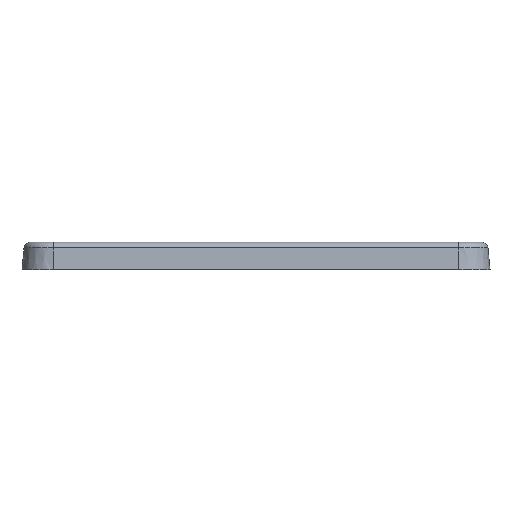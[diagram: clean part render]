
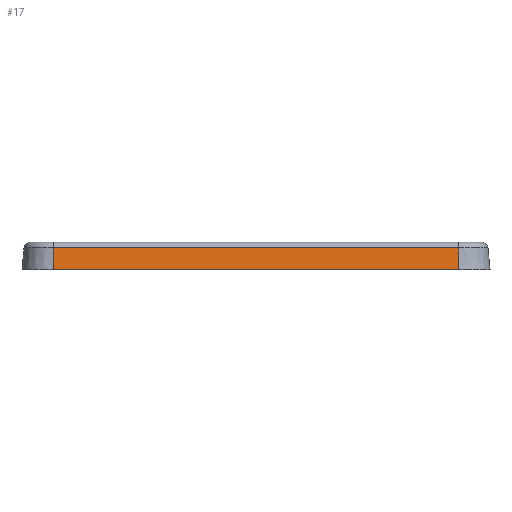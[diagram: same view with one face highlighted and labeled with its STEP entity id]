
A CAD part, left-side view. The second image highlights one B-rep face of the part: STEP entity #17.
In plain terms, the highlighted planar face has unit normal (-0.996, 0, 0.093).
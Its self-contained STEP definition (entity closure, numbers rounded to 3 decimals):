
#17 = ADVANCED_FACE('',(#18),#32,.F.);
#18 = FACE_BOUND('',#19,.F.);
#19 = EDGE_LOOP('',(#20,#53,#81,#107));
#20 = ORIENTED_EDGE('',*,*,#21,.T.);
#21 = EDGE_CURVE('',#22,#24,#26,.T.);
#22 = VERTEX_POINT('',#23);
#23 = CARTESIAN_POINT('',(-2.1,-4.,0.));
#24 = VERTEX_POINT('',#25);
#25 = CARTESIAN_POINT('',(-1.702,-4.,4.242));
#26 = SURFACE_CURVE('',#27,(#31,#42),.PCURVE_S1.);
#27 = LINE('',#28,#29);
#28 = CARTESIAN_POINT('',(-2.1,-4.,0.));
#29 = VECTOR('',#30,1.);
#30 = DIRECTION('',(0.093,0.,
    0.996));
#31 = PCURVE('',#32,#37);
#32 = PLANE('',#33);
#33 = AXIS2_PLACEMENT_3D('',#34,#35,#36);
#34 = CARTESIAN_POINT('',(-2.1,-43.5,0.));
#35 = DIRECTION('',(0.996,0.,-0.093));
#36 = DIRECTION('',(0.093,0.,0.996));
#37 = DEFINITIONAL_REPRESENTATION('',(#38),#41);
#38 = B_SPLINE_CURVE_WITH_KNOTS('',1,(#39,#40),.UNSPECIFIED.,.F.,.F.,(2,
    2),(0.,5.353),.PIECEWISE_BEZIER_KNOTS.);
#39 = CARTESIAN_POINT('',(0.,-39.5));
#40 = CARTESIAN_POINT('',(5.353,-39.5));
#41 = ( GEOMETRIC_REPRESENTATION_CONTEXT(2) 
PARAMETRIC_REPRESENTATION_CONTEXT() REPRESENTATION_CONTEXT('2D SPACE',''
  ) );
#42 = PCURVE('',#43,#48);
#43 = CONICAL_SURFACE('',#44,6.1,0.094);
#44 = AXIS2_PLACEMENT_3D('',#45,#46,#47);
#45 = CARTESIAN_POINT('',(4.,-4.,0.));
#46 = DIRECTION('',(0.,0.,-1.));
#47 = DIRECTION('',(1.,0.,0.));
#48 = DEFINITIONAL_REPRESENTATION('',(#49),#52);
#49 = B_SPLINE_CURVE_WITH_KNOTS('',1,(#50,#51),.UNSPECIFIED.,.F.,.F.,(2,
    2),(0.,5.353),.PIECEWISE_BEZIER_KNOTS.);
#50 = CARTESIAN_POINT('',(-3.142,0.));
#51 = CARTESIAN_POINT('',(-3.142,-5.33));
#52 = ( GEOMETRIC_REPRESENTATION_CONTEXT(2) 
PARAMETRIC_REPRESENTATION_CONTEXT() REPRESENTATION_CONTEXT('2D SPACE',''
  ) );
#53 = ORIENTED_EDGE('',*,*,#54,.T.);
#54 = EDGE_CURVE('',#24,#55,#57,.T.);
#55 = VERTEX_POINT('',#56);
#56 = CARTESIAN_POINT('',(-1.702,-83.,4.242));
#57 = SURFACE_CURVE('',#58,(#62,#69),.PCURVE_S1.);
#58 = LINE('',#59,#60);
#59 = CARTESIAN_POINT('',(-1.702,-4.,4.242));
#60 = VECTOR('',#61,1.);
#61 = DIRECTION('',(0.,-1.,0.));
#62 = PCURVE('',#32,#63);
#63 = DEFINITIONAL_REPRESENTATION('',(#64),#68);
#64 = LINE('',#65,#66);
#65 = CARTESIAN_POINT('',(4.261,-39.5));
#66 = VECTOR('',#67,1.);
#67 = DIRECTION('',(0.,1.));
#68 = ( GEOMETRIC_REPRESENTATION_CONTEXT(2) 
PARAMETRIC_REPRESENTATION_CONTEXT() REPRESENTATION_CONTEXT('2D SPACE',''
  ) );
#69 = PCURVE('',#70,#75);
#70 = CYLINDRICAL_SURFACE('',#71,1.2);
#71 = AXIS2_PLACEMENT_3D('',#72,#73,#74);
#72 = CARTESIAN_POINT('',(-0.507,-4.,4.13));
#73 = DIRECTION('',(0.,-1.,0.));
#74 = DIRECTION('',(-0.996,0.,0.093));
#75 = DEFINITIONAL_REPRESENTATION('',(#76),#80);
#76 = LINE('',#77,#78);
#77 = CARTESIAN_POINT('',(-0.,0.));
#78 = VECTOR('',#79,1.);
#79 = DIRECTION('',(-0.,1.));
#80 = ( GEOMETRIC_REPRESENTATION_CONTEXT(2) 
PARAMETRIC_REPRESENTATION_CONTEXT() REPRESENTATION_CONTEXT('2D SPACE',''
  ) );
#81 = ORIENTED_EDGE('',*,*,#82,.F.);
#82 = EDGE_CURVE('',#83,#55,#85,.T.);
#83 = VERTEX_POINT('',#84);
#84 = CARTESIAN_POINT('',(-2.1,-83.,0.));
#85 = SURFACE_CURVE('',#86,(#90,#96),.PCURVE_S1.);
#86 = LINE('',#87,#88);
#87 = CARTESIAN_POINT('',(-2.1,-83.,0.));
#88 = VECTOR('',#89,1.);
#89 = DIRECTION('',(0.093,0.,0.996));
#90 = PCURVE('',#32,#91);
#91 = DEFINITIONAL_REPRESENTATION('',(#92),#95);
#92 = B_SPLINE_CURVE_WITH_KNOTS('',1,(#93,#94),.UNSPECIFIED.,.F.,.F.,(2,
    2),(0.,5.353),.PIECEWISE_BEZIER_KNOTS.);
#93 = CARTESIAN_POINT('',(0.,39.5));
#94 = CARTESIAN_POINT('',(5.353,39.5));
#95 = ( GEOMETRIC_REPRESENTATION_CONTEXT(2) 
PARAMETRIC_REPRESENTATION_CONTEXT() REPRESENTATION_CONTEXT('2D SPACE',''
  ) );
#96 = PCURVE('',#97,#102);
#97 = CONICAL_SURFACE('',#98,6.1,0.094);
#98 = AXIS2_PLACEMENT_3D('',#99,#100,#101);
#99 = CARTESIAN_POINT('',(4.,-83.,0.));
#100 = DIRECTION('',(0.,0.,-1.));
#101 = DIRECTION('',(1.,0.,0.));
#102 = DEFINITIONAL_REPRESENTATION('',(#103),#106);
#103 = B_SPLINE_CURVE_WITH_KNOTS('',1,(#104,#105),.UNSPECIFIED.,.F.,.F.,
  (2,2),(0.,5.353),.PIECEWISE_BEZIER_KNOTS.);
#104 = CARTESIAN_POINT('',(-3.142,0.));
#105 = CARTESIAN_POINT('',(-3.142,-5.33));
#106 = ( GEOMETRIC_REPRESENTATION_CONTEXT(2) 
PARAMETRIC_REPRESENTATION_CONTEXT() REPRESENTATION_CONTEXT('2D SPACE',''
  ) );
#107 = ORIENTED_EDGE('',*,*,#108,.T.);
#108 = EDGE_CURVE('',#83,#22,#109,.T.);
#109 = SURFACE_CURVE('',#110,(#114,#121),.PCURVE_S1.);
#110 = LINE('',#111,#112);
#111 = CARTESIAN_POINT('',(-2.1,-43.5,0.));
#112 = VECTOR('',#113,1.);
#113 = DIRECTION('',(0.,1.,0.));
#114 = PCURVE('',#32,#115);
#115 = DEFINITIONAL_REPRESENTATION('',(#116),#120);
#116 = LINE('',#117,#118);
#117 = CARTESIAN_POINT('',(0.,0.));
#118 = VECTOR('',#119,1.);
#119 = DIRECTION('',(-0.,-1.));
#120 = ( GEOMETRIC_REPRESENTATION_CONTEXT(2) 
PARAMETRIC_REPRESENTATION_CONTEXT() REPRESENTATION_CONTEXT('2D SPACE',''
  ) );
#121 = PCURVE('',#122,#127);
#122 = PLANE('',#123);
#123 = AXIS2_PLACEMENT_3D('',#124,#125,#126);
#124 = CARTESIAN_POINT('',(24.,-43.5,0.));
#125 = DIRECTION('',(0.,0.,1.));
#126 = DIRECTION('',(1.,0.,0.));
#127 = DEFINITIONAL_REPRESENTATION('',(#128),#132);
#128 = LINE('',#129,#130);
#129 = CARTESIAN_POINT('',(-26.1,0.));
#130 = VECTOR('',#131,1.);
#131 = DIRECTION('',(0.,1.));
#132 = ( GEOMETRIC_REPRESENTATION_CONTEXT(2) 
PARAMETRIC_REPRESENTATION_CONTEXT() REPRESENTATION_CONTEXT('2D SPACE',''
  ) );
